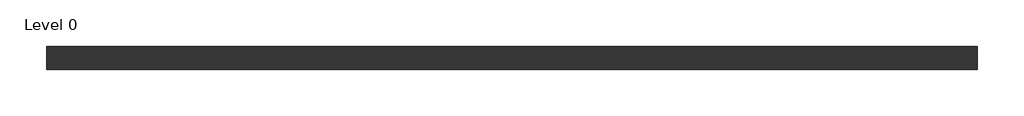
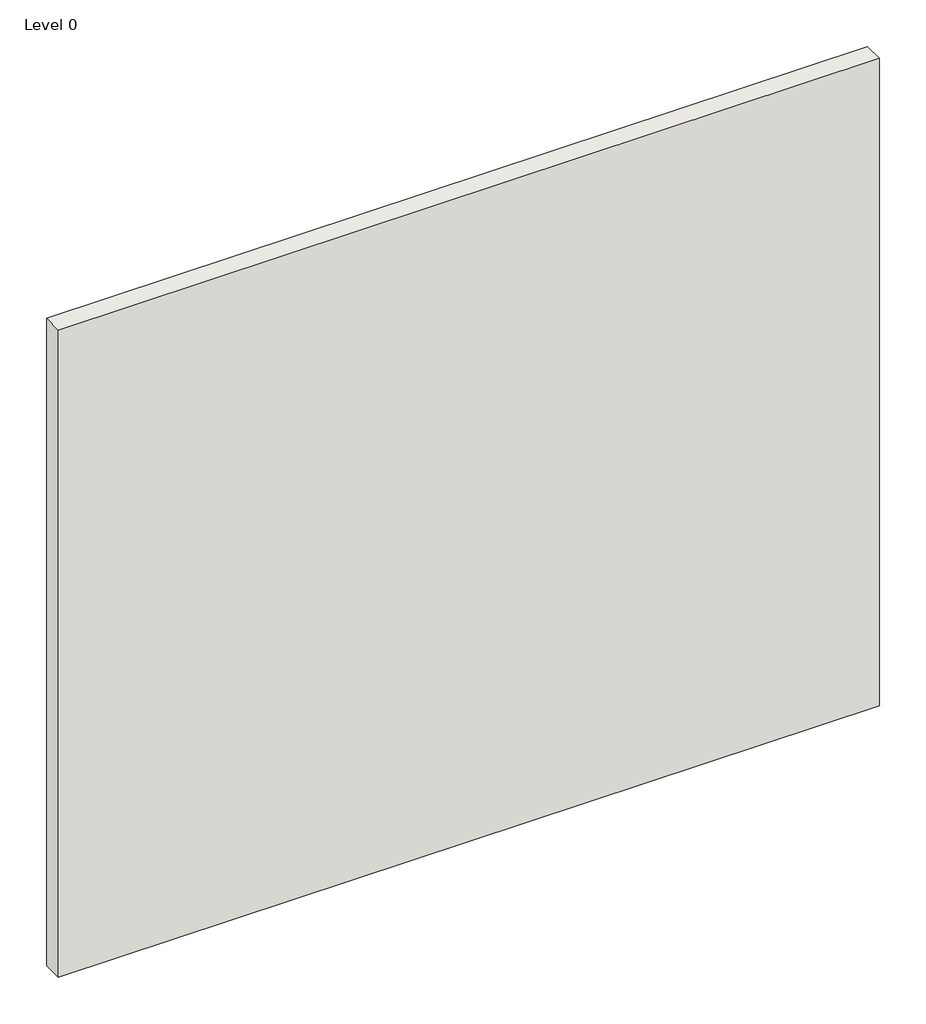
# One storey: 1 wall.
"""IFC4 building model written with IfcOpenShell, lengths in millimetres."""

from ifc_helpers import new_model, si_unit, origin, origin_with_axes, place, context, project, spatial, polyline, outline, extrude, element, save

model = new_model("IFC4")

# Units and contexts
model_context = context("Model", 3, world=origin())
ifc_project = project(units=[si_unit("LENGTHUNIT", "METRE", prefix="MILLI")], contexts=[model_context])

# Site, building, storey
site = spatial("IfcSite", under=ifc_project)
building = spatial("IfcBuilding", under=site)
storey = spatial("IfcBuildingStorey", under=building, Name="Level 0", Elevation=0.0)

# Wall
placement = place(None, origin())
element("IfcWall", 1, ObjectType="A206001 - GypWall CLASSIC", at=placement, inside=storey, context=model_context, shape_type="SweptSolid", body=[
    extrude(outline(polyline([(2116.0807354, 556.2205641), (-883.9192646, 556.2205641), (-883.9192646, 631.2205641), (2116.0807354, 631.2205641), (2116.0807354, 556.2205641)])), origin_with_axes(), (0.0, 0.0, 1.0), 2500.0),
])

save(model, "model.ifc")
